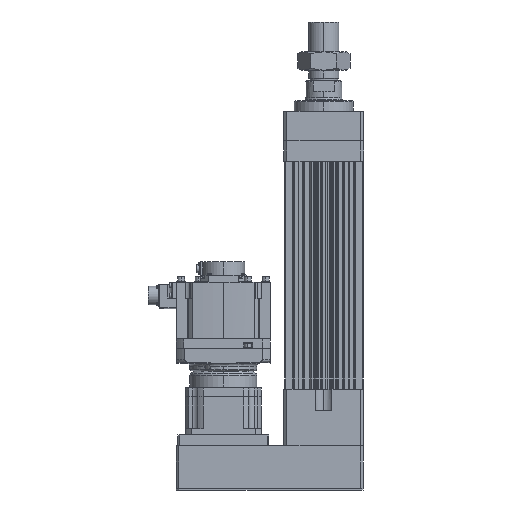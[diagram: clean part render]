
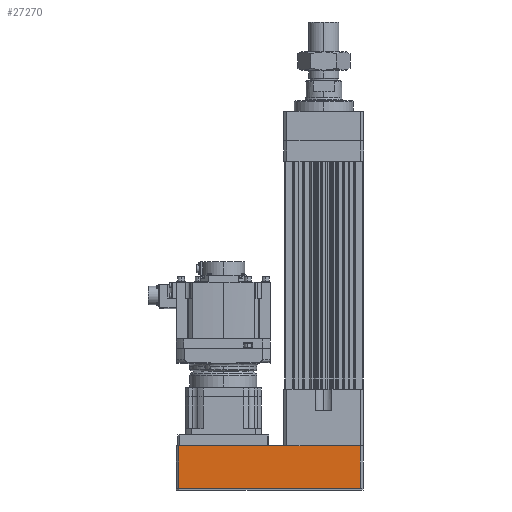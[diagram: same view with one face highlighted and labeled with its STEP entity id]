
A CAD part, left-side view. The second image highlights one B-rep face of the part: STEP entity #27270.
In plain terms, the highlighted planar face has unit normal (-1, 0, 0).
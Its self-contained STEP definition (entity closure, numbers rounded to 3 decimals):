
#304 = AXIS2_PLACEMENT_3D ( 'NONE', #19374, #2659, #48162 ) ;
#1425 = CARTESIAN_POINT ( 'NONE',  ( -73.5, 271.5, -185.5 ) ) ;
#1513 = LINE ( 'NONE', #51881, #27682 ) ;
#2659 = DIRECTION ( 'NONE',  ( 1., 0., 0. ) ) ;
#4160 = EDGE_CURVE ( 'NONE', #52657, #23327, #4837, .T. ) ;
#4837 = LINE ( 'NONE', #41204, #31695 ) ;
#8011 = VERTEX_POINT ( 'NONE', #16479 ) ;
#8995 = FACE_OUTER_BOUND ( 'NONE', #26437, .T. ) ;
#9030 = ORIENTED_EDGE ( 'NONE', *, *, #11906, .T. ) ;
#11906 = EDGE_CURVE ( 'NONE', #23327, #8011, #1513, .T. ) ;
#12664 = EDGE_CURVE ( 'NONE', #52657, #32213, #13595, .T. ) ;
#13595 = LINE ( 'NONE', #26790, #31501 ) ;
#16479 = CARTESIAN_POINT ( 'NONE',  ( -73.5, -68.5, -106.5 ) ) ;
#16748 = ORIENTED_EDGE ( 'NONE', *, *, #27529, .T. ) ;
#16934 = DIRECTION ( 'NONE',  ( 0., -1., 0. ) ) ;
#18768 = DIRECTION ( 'NONE',  ( 0., 1., 0. ) ) ;
#19015 = PLANE ( 'NONE',  #304 ) ;
#19374 = CARTESIAN_POINT ( 'NONE',  ( -73.5, -68.5, -186. ) ) ;
#21620 = CARTESIAN_POINT ( 'NONE',  ( -73.5, -68.5, -185.5 ) ) ;
#22320 = VECTOR ( 'NONE', #18768, 1000. ) ;
#23327 = VERTEX_POINT ( 'NONE', #21620 ) ;
#23676 = DIRECTION ( 'NONE',  ( 0., 0., 1. ) ) ;
#26437 = EDGE_LOOP ( 'NONE', ( #30439, #45868, #9030, #16748 ) ) ;
#26790 = CARTESIAN_POINT ( 'NONE',  ( -73.5, 271.5, -186. ) ) ;
#27270 = ADVANCED_FACE ( 'NONE', ( #8995 ), #19015, .F. ) ;
#27529 = EDGE_CURVE ( 'NONE', #8011, #32213, #34487, .T. ) ;
#27682 = VECTOR ( 'NONE', #23676, 1000. ) ;
#30439 = ORIENTED_EDGE ( 'NONE', *, *, #12664, .F. ) ;
#31501 = VECTOR ( 'NONE', #42819, 1000. ) ;
#31695 = VECTOR ( 'NONE', #16934, 1000. ) ;
#32213 = VERTEX_POINT ( 'NONE', #40955 ) ;
#34487 = LINE ( 'NONE', #47559, #22320 ) ;
#40955 = CARTESIAN_POINT ( 'NONE',  ( -73.5, 271.5, -106.5 ) ) ;
#41204 = CARTESIAN_POINT ( 'NONE',  ( -73.5, -68.5, -185.5 ) ) ;
#42819 = DIRECTION ( 'NONE',  ( 0., 0., 1. ) ) ;
#45868 = ORIENTED_EDGE ( 'NONE', *, *, #4160, .T. ) ;
#47559 = CARTESIAN_POINT ( 'NONE',  ( -73.5, -68.5, -106.5 ) ) ;
#48162 = DIRECTION ( 'NONE',  ( 0., 1., 0. ) ) ;
#51881 = CARTESIAN_POINT ( 'NONE',  ( -73.5, -68.5, -186. ) ) ;
#52657 = VERTEX_POINT ( 'NONE', #1425 ) ;
